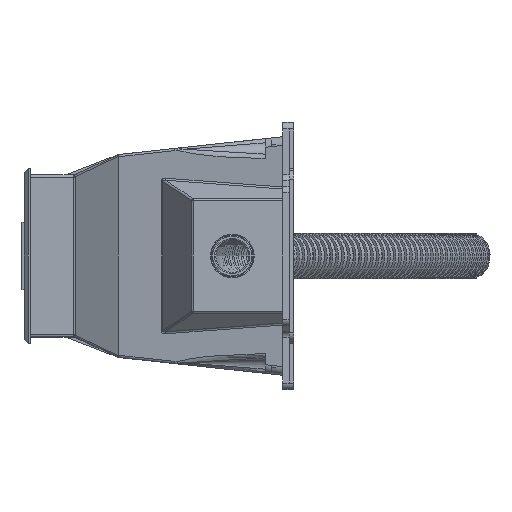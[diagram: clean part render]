
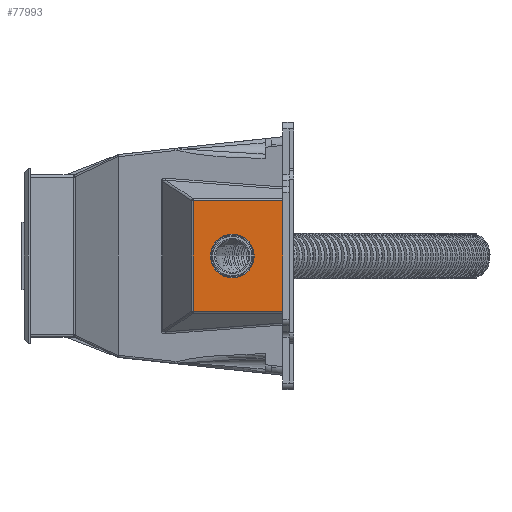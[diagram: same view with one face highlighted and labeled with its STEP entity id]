
A CAD part, left-side view. The second image highlights one B-rep face of the part: STEP entity #77993.
In plain terms, the highlighted planar face has unit normal (-1, 0, 0).
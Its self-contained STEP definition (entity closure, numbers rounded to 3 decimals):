
#70672=CARTESIAN_POINT('',(-130.,-72.,0.));
#70673=DIRECTION('',(1.,0.,0.));
#70674=DIRECTION('',(0.,0.,-1.));
#70675=AXIS2_PLACEMENT_3D('',#70672,#70673,#70674);
#70677=CARTESIAN_POINT('',(-130.,-72.,0.));
#70678=DIRECTION('',(1.,0.,0.));
#70679=DIRECTION('',(0.,0.,1.));
#70680=AXIS2_PLACEMENT_3D('',#70677,#70678,#70679);
#70682=DIRECTION('',(0.,-1.,0.));
#70683=VECTOR('',#70682,40.726);
#70684=CARTESIAN_POINT('',(-130.,-54.274,-25.204));
#70685=LINE('',#70684,#70683);
#70686=DIRECTION('',(0.,0.,-1.));
#70687=VECTOR('',#70686,50.408);
#70688=CARTESIAN_POINT('',(-130.,-54.274,25.204));
#70689=LINE('',#70688,#70687);
#70690=DIRECTION('',(0.,1.,0.));
#70691=VECTOR('',#70690,40.726);
#70692=CARTESIAN_POINT('',(-130.,-95.,25.204));
#70693=LINE('',#70692,#70691);
#70694=DIRECTION('',(0.,0.,-1.));
#70695=VECTOR('',#70694,50.408);
#70696=CARTESIAN_POINT('',(-130.,-95.,25.204));
#70697=LINE('',#70696,#70695);
#75605=CARTESIAN_POINT('',(-130.,-72.,-10.));
#75606=CARTESIAN_POINT('',(-130.,-72.,10.));
#75607=VERTEX_POINT('',#75605);
#75608=VERTEX_POINT('',#75606);
#75793=CARTESIAN_POINT('',(-130.,-54.274,-25.204));
#75794=CARTESIAN_POINT('',(-130.,-95.,-25.204));
#75795=VERTEX_POINT('',#75793);
#75796=VERTEX_POINT('',#75794);
#75801=CARTESIAN_POINT('',(-130.,-54.274,25.204));
#75802=VERTEX_POINT('',#75801);
#75813=CARTESIAN_POINT('',(-130.,-95.,25.204));
#75814=VERTEX_POINT('',#75813);
#77973=CARTESIAN_POINT('',(-130.,0.,0.));
#77974=DIRECTION('',(1.,0.,0.));
#77975=DIRECTION('',(0.,0.,-1.));
#77976=AXIS2_PLACEMENT_3D('',#77973,#77974,#77975);
#77977=PLANE('',#77976);
#77979=ORIENTED_EDGE('',*,*,#77978,.F.);
#77981=ORIENTED_EDGE('',*,*,#77980,.F.);
#77983=ORIENTED_EDGE('',*,*,#77982,.F.);
#77985=ORIENTED_EDGE('',*,*,#77984,.T.);
#77986=EDGE_LOOP('',(#77979,#77981,#77983,#77985));
#77987=FACE_OUTER_BOUND('',#77986,.F.);
#77988=ORIENTED_EDGE('',*,*,#77947,.F.);
#77990=ORIENTED_EDGE('',*,*,#77989,.F.);
#77991=EDGE_LOOP('',(#77988,#77990));
#77992=FACE_BOUND('',#77991,.F.);
#77993=ADVANCED_FACE('',(#77987,#77992),#77977,.F.);
#70676=CIRCLE('',#70675,10.);
#70681=CIRCLE('',#70680,10.);
#77947=EDGE_CURVE('',#75607,#75608,#70676,.T.);
#77978=EDGE_CURVE('',#75795,#75796,#70685,.T.);
#77980=EDGE_CURVE('',#75802,#75795,#70689,.T.);
#77982=EDGE_CURVE('',#75814,#75802,#70693,.T.);
#77984=EDGE_CURVE('',#75814,#75796,#70697,.T.);
#77989=EDGE_CURVE('',#75608,#75607,#70681,.T.);
